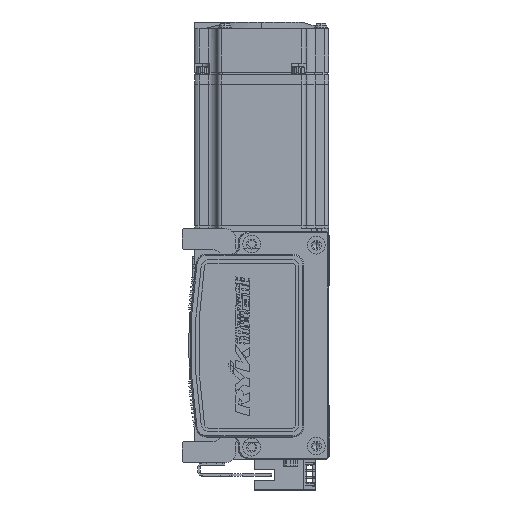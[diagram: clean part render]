
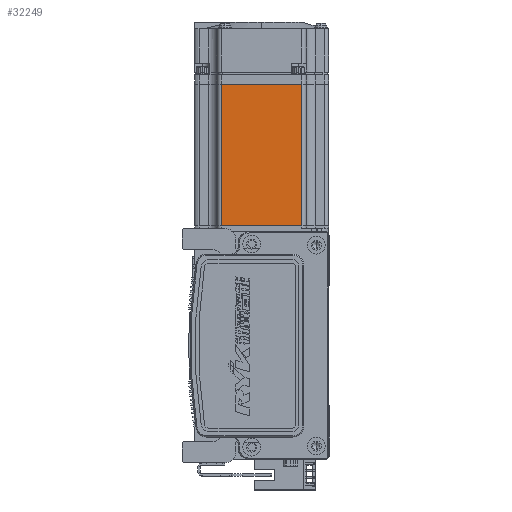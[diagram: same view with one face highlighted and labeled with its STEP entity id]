
A CAD part, left-side view. The second image highlights one B-rep face of the part: STEP entity #32249.
In plain terms, the highlighted planar face has unit normal (-1, 0, 0) as drawn and (0, 0, -1) by its records, which use the part's own axes.
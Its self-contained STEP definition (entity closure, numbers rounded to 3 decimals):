
#277 = CARTESIAN_POINT ( 'NONE',  ( -7.75, -18., -30. ) ) ;
#8131 = EDGE_CURVE ( 'NONE', #43731, #14317, #15168, .T. ) ;
#9322 = CARTESIAN_POINT ( 'NONE',  ( -6.5, -18., -30. ) ) ;
#10771 = DIRECTION ( 'NONE',  ( 0., 1., 0. ) ) ;
#11253 = CARTESIAN_POINT ( 'NONE',  ( -70.95, 25., -30. ) ) ;
#12690 = PLANE ( 'NONE',  #24236 ) ;
#14317 = VERTEX_POINT ( 'NONE', #33786 ) ;
#15168 = LINE ( 'NONE', #9322, #27356 ) ;
#15850 = DIRECTION ( 'NONE',  ( 1., 0., 0. ) ) ;
#18162 = ORIENTED_EDGE ( 'NONE', *, *, #32124, .T. ) ;
#20945 = EDGE_CURVE ( 'NONE', #14317, #45599, #39616, .T. ) ;
#22733 = DIRECTION ( 'NONE',  ( 0., -1., 0. ) ) ;
#24174 = CARTESIAN_POINT ( 'NONE',  ( -6.5, 25., -30. ) ) ;
#24236 = AXIS2_PLACEMENT_3D ( 'NONE', #24174, #63205, #69065 ) ;
#25233 = EDGE_CURVE ( 'NONE', #45599, #31487, #56183, .T. ) ;
#27356 = VECTOR ( 'NONE', #48410, 1000. ) ;
#27739 = CARTESIAN_POINT ( 'NONE',  ( -7.75, 18., -30. ) ) ;
#31487 = VERTEX_POINT ( 'NONE', #27739 ) ;
#32124 = EDGE_CURVE ( 'NONE', #31487, #43731, #71042, .T. ) ;
#32249 = ADVANCED_FACE ( 'NONE', ( #57981 ), #12690, .T. ) ;
#33786 = CARTESIAN_POINT ( 'NONE',  ( -70.95, -18., -30. ) ) ;
#38697 = VECTOR ( 'NONE', #15850, 1000. ) ;
#39616 = LINE ( 'NONE', #11253, #49206 ) ;
#40117 = ORIENTED_EDGE ( 'NONE', *, *, #20945, .T. ) ;
#40359 = CARTESIAN_POINT ( 'NONE',  ( -7.75, 25., -30. ) ) ;
#40368 = EDGE_LOOP ( 'NONE', ( #18162, #55759, #40117, #65901 ) ) ;
#43731 = VERTEX_POINT ( 'NONE', #277 ) ;
#45599 = VERTEX_POINT ( 'NONE', #60072 ) ;
#45817 = VECTOR ( 'NONE', #22733, 1000. ) ;
#48410 = DIRECTION ( 'NONE',  ( -1., 0., 0. ) ) ;
#49206 = VECTOR ( 'NONE', #10771, 1000. ) ;
#54697 = CARTESIAN_POINT ( 'NONE',  ( -6.5, 18., -30. ) ) ;
#55759 = ORIENTED_EDGE ( 'NONE', *, *, #8131, .T. ) ;
#56183 = LINE ( 'NONE', #54697, #38697 ) ;
#57981 = FACE_OUTER_BOUND ( 'NONE', #40368, .T. ) ;
#60072 = CARTESIAN_POINT ( 'NONE',  ( -70.95, 18., -30. ) ) ;
#63205 = DIRECTION ( 'NONE',  ( 0., 0., -1. ) ) ;
#65901 = ORIENTED_EDGE ( 'NONE', *, *, #25233, .T. ) ;
#69065 = DIRECTION ( 'NONE',  ( -1., 0., 0. ) ) ;
#71042 = LINE ( 'NONE', #40359, #45817 ) ;
